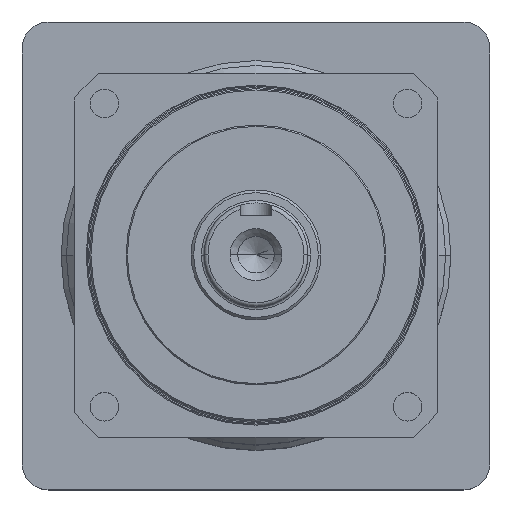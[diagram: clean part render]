
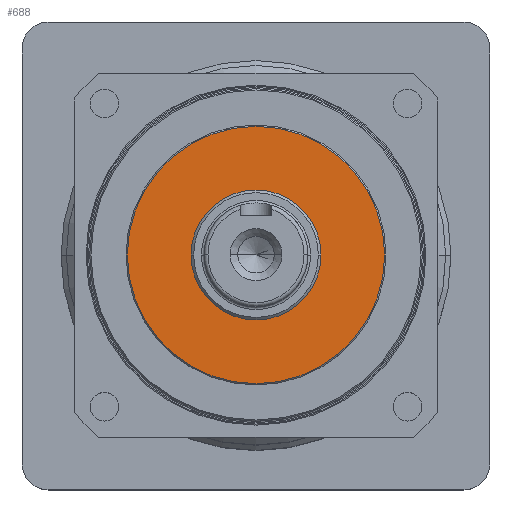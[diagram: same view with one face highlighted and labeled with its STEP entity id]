
A CAD part, top view. The second image highlights one B-rep face of the part: STEP entity #688.
In plain terms, the highlighted planar face has unit normal (0, 0, 1).
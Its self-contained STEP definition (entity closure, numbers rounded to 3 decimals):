
#66 = CIRCLE ( 'NONE', #5460, 49.5 ) ;
#464 = CARTESIAN_POINT ( 'NONE',  ( 0., 0., 41. ) ) ;
#571 = CARTESIAN_POINT ( 'NONE',  ( 49.5, 0., 41. ) ) ;
#615 = EDGE_CURVE ( 'NONE', #1643, #1357, #2362, .T. ) ;
#641 = DIRECTION ( 'NONE',  ( 1., 0., 0. ) ) ;
#676 = CARTESIAN_POINT ( 'NONE',  ( 0., 0., 41. ) ) ;
#688 = ADVANCED_FACE ( 'NONE', ( #3005, #3315 ), #992, .T. ) ;
#759 = CARTESIAN_POINT ( 'NONE',  ( -49.5, 0., 41. ) ) ;
#921 = AXIS2_PLACEMENT_3D ( 'NONE', #676, #3948, #2569 ) ;
#942 = EDGE_CURVE ( 'NONE', #5037, #5287, #5373, .T. ) ;
#992 = PLANE ( 'NONE',  #2337 ) ;
#1046 = EDGE_LOOP ( 'NONE', ( #1822, #1317 ) ) ;
#1187 = AXIS2_PLACEMENT_3D ( 'NONE', #464, #4232, #1928 ) ;
#1317 = ORIENTED_EDGE ( 'NONE', *, *, #2502, .F. ) ;
#1357 = VERTEX_POINT ( 'NONE', #759 ) ;
#1366 = DIRECTION ( 'NONE',  ( 1., 0., 0. ) ) ;
#1426 = DIRECTION ( 'NONE',  ( 0., 0., 1. ) ) ;
#1430 = DIRECTION ( 'NONE',  ( 1., 0., 0. ) ) ;
#1554 = EDGE_CURVE ( 'NONE', #1357, #1643, #66, .T. ) ;
#1640 = DIRECTION ( 'NONE',  ( 0., 0., 1. ) ) ;
#1643 = VERTEX_POINT ( 'NONE', #571 ) ;
#1822 = ORIENTED_EDGE ( 'NONE', *, *, #942, .F. ) ;
#1928 = DIRECTION ( 'NONE',  ( 1., 0., 0. ) ) ;
#2337 = AXIS2_PLACEMENT_3D ( 'NONE', #2376, #4285, #1430 ) ;
#2362 = CIRCLE ( 'NONE', #1187, 49.5 ) ;
#2376 = CARTESIAN_POINT ( 'NONE',  ( 0., 0., 41. ) ) ;
#2502 = EDGE_CURVE ( 'NONE', #5287, #5037, #5310, .T. ) ;
#2569 = DIRECTION ( 'NONE',  ( 1., 0., 0. ) ) ;
#3005 = FACE_BOUND ( 'NONE', #1046, .T. ) ;
#3315 = FACE_OUTER_BOUND ( 'NONE', #5214, .T. ) ;
#3586 = ORIENTED_EDGE ( 'NONE', *, *, #1554, .T. ) ;
#3781 = CARTESIAN_POINT ( 'NONE',  ( 0., 0., 41. ) ) ;
#3782 = CARTESIAN_POINT ( 'NONE',  ( -25., 0., 41. ) ) ;
#3945 = CARTESIAN_POINT ( 'NONE',  ( 0., 0., 41. ) ) ;
#3948 = DIRECTION ( 'NONE',  ( 0., 0., 1. ) ) ;
#3977 = CARTESIAN_POINT ( 'NONE',  ( 25., 0., 41. ) ) ;
#4172 = ORIENTED_EDGE ( 'NONE', *, *, #615, .T. ) ;
#4232 = DIRECTION ( 'NONE',  ( 0., 0., 1. ) ) ;
#4285 = DIRECTION ( 'NONE',  ( 0., 0., 1. ) ) ;
#4354 = AXIS2_PLACEMENT_3D ( 'NONE', #3945, #1640, #641 ) ;
#5037 = VERTEX_POINT ( 'NONE', #3782 ) ;
#5214 = EDGE_LOOP ( 'NONE', ( #3586, #4172 ) ) ;
#5287 = VERTEX_POINT ( 'NONE', #3977 ) ;
#5310 = CIRCLE ( 'NONE', #921, 25. ) ;
#5373 = CIRCLE ( 'NONE', #4354, 25. ) ;
#5460 = AXIS2_PLACEMENT_3D ( 'NONE', #3781, #1426, #1366 ) ;
